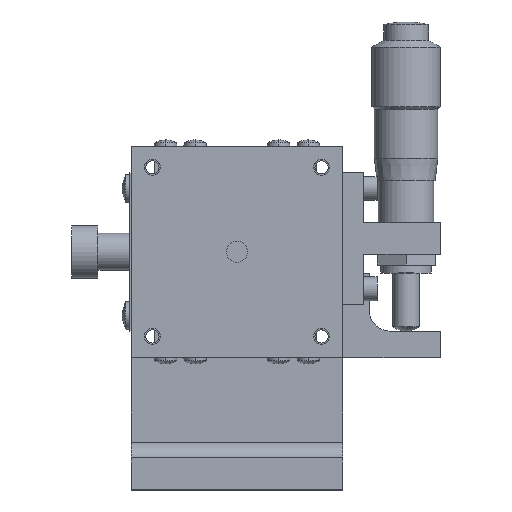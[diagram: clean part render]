
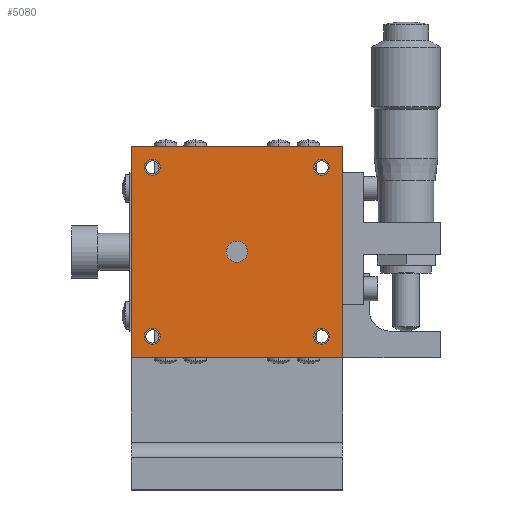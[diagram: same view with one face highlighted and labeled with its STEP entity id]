
A CAD part, top view. The second image highlights one B-rep face of the part: STEP entity #5080.
In plain terms, the highlighted planar face has unit normal (0, 0, 1).
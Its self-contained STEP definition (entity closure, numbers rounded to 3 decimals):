
#778 = DIRECTION ( 'NONE',  ( -1., 0., 0. ) ) ;
#779 = DIRECTION ( 'NONE',  ( 0., 0., 1. ) ) ;
#780 = CARTESIAN_POINT ( 'NONE',  ( -16., 61., 0. ) ) ;
#781 = AXIS2_PLACEMENT_3D ( 'NONE', #780, #779, #778 ) ;
#800 = CIRCLE ( 'NONE', #781, 1.5 ) ;
#911 = DIRECTION ( 'NONE',  ( -1., 0., 0. ) ) ;
#912 = DIRECTION ( 'NONE',  ( 0., 0., 1. ) ) ;
#913 = AXIS2_PLACEMENT_3D ( 'NONE', #928, #912, #911 ) ;
#922 = CIRCLE ( 'NONE', #913, 2. ) ;
#928 = CARTESIAN_POINT ( 'NONE',  ( 0., 45., 0. ) ) ;
#934 = LINE ( 'NONE', #939, #990 ) ;
#938 = DIRECTION ( 'NONE',  ( 0., -1., 0. ) ) ;
#939 = CARTESIAN_POINT ( 'NONE',  ( -20., 65., 0. ) ) ;
#976 = CARTESIAN_POINT ( 'NONE',  ( -20., 25., 0. ) ) ;
#990 = VECTOR ( 'NONE', #938, 1000. ) ;
#991 = DIRECTION ( 'NONE',  ( -1., 0., 0. ) ) ;
#992 = VECTOR ( 'NONE', #991, 1000. ) ;
#993 = CARTESIAN_POINT ( 'NONE',  ( -20., 25., 0. ) ) ;
#994 = LINE ( 'NONE', #993, #992 ) ;
#1037 = CARTESIAN_POINT ( 'NONE',  ( -20., 65., 0. ) ) ;
#1054 = DIRECTION ( 'NONE',  ( -1., 0., 0. ) ) ;
#1055 = VECTOR ( 'NONE', #1054, 1000. ) ;
#1056 = CARTESIAN_POINT ( 'NONE',  ( -20., 65., 0. ) ) ;
#1057 = LINE ( 'NONE', #1056, #1055 ) ;
#3126 = CARTESIAN_POINT ( 'NONE',  ( 17.5, 29., 0. ) ) ;
#3127 = CARTESIAN_POINT ( 'NONE',  ( 2., 45., 0. ) ) ;
#3132 = AXIS2_PLACEMENT_3D ( 'NONE', #3180, #3179, #3178 ) ;
#3136 = CARTESIAN_POINT ( 'NONE',  ( -2., 45., 0. ) ) ;
#3178 = DIRECTION ( 'NONE',  ( -1., 0., 0. ) ) ;
#3179 = DIRECTION ( 'NONE',  ( 0., 0., 1. ) ) ;
#3180 = CARTESIAN_POINT ( 'NONE',  ( 0., 45., 0. ) ) ;
#3188 = CIRCLE ( 'NONE', #3132, 2. ) ;
#3305 = DIRECTION ( 'NONE',  ( 0., 0., 1. ) ) ;
#3306 = CARTESIAN_POINT ( 'NONE',  ( -16., 61., 0. ) ) ;
#3307 = AXIS2_PLACEMENT_3D ( 'NONE', #3306, #3305, #3371 ) ;
#3308 = CIRCLE ( 'NONE', #3307, 1.5 ) ;
#3352 = CARTESIAN_POINT ( 'NONE',  ( -14.5, 61., 0. ) ) ;
#3371 = DIRECTION ( 'NONE',  ( -1., 0., 0. ) ) ;
#3388 = CARTESIAN_POINT ( 'NONE',  ( -17.5, 61., 0. ) ) ;
#3420 = CARTESIAN_POINT ( 'NONE',  ( -14.5, 29., 0. ) ) ;
#3479 = CARTESIAN_POINT ( 'NONE',  ( -17.5, 29., 0. ) ) ;
#3514 = DIRECTION ( 'NONE',  ( -1., 0., 0. ) ) ;
#3515 = DIRECTION ( 'NONE',  ( 0., 0., 1. ) ) ;
#3516 = CARTESIAN_POINT ( 'NONE',  ( -16., 29., 0. ) ) ;
#3517 = AXIS2_PLACEMENT_3D ( 'NONE', #3516, #3515, #3514 ) ;
#3528 = CIRCLE ( 'NONE', #3517, 1.5 ) ;
#3600 = CIRCLE ( 'NONE', #3606, 1.5 ) ;
#3605 = CARTESIAN_POINT ( 'NONE',  ( 16., 29., 0. ) ) ;
#3606 = AXIS2_PLACEMENT_3D ( 'NONE', #3605, #3659, #3658 ) ;
#3616 = CARTESIAN_POINT ( 'NONE',  ( 14.5, 29., 0. ) ) ;
#3658 = DIRECTION ( 'NONE',  ( -1., 0., 0. ) ) ;
#3659 = DIRECTION ( 'NONE',  ( 0., 0., 1. ) ) ;
#4978 = EDGE_CURVE ( 'NONE', #4999, #4979, #8003, .T. ) ;
#4979 = VERTEX_POINT ( 'NONE', #8047 ) ;
#4985 = VERTEX_POINT ( 'NONE', #8040 ) ;
#4994 = EDGE_CURVE ( 'NONE', #5000, #4985, #8085, .T. ) ;
#4999 = VERTEX_POINT ( 'NONE', #8019 ) ;
#5000 = VERTEX_POINT ( 'NONE', #8075 ) ;
#5008 = EDGE_CURVE ( 'NONE', #10207, #10172, #8124, .T. ) ;
#5059 = ORIENTED_EDGE ( 'NONE', *, *, #5984, .T. ) ;
#5061 = ORIENTED_EDGE ( 'NONE', *, *, #10212, .F. ) ;
#5062 = ORIENTED_EDGE ( 'NONE', *, *, #5908, .F. ) ;
#5068 = EDGE_LOOP ( 'NONE', ( #5070, #5837 ) ) ;
#5070 = ORIENTED_EDGE ( 'NONE', *, *, #5828, .F. ) ;
#5071 = EDGE_LOOP ( 'NONE', ( #5084, #5061 ) ) ;
#5072 = EDGE_LOOP ( 'NONE', ( #5083, #5081 ) ) ;
#5076 = EDGE_LOOP ( 'NONE', ( #5077, #5082 ) ) ;
#5077 = ORIENTED_EDGE ( 'NONE', *, *, #5078, .F. ) ;
#5078 = EDGE_CURVE ( 'NONE', #10283, #10002, #8164, .T. ) ;
#5080 = ADVANCED_FACE ( 'NONE', ( #8156, #8153, #8213, #8215, #8214, #8207 ), #8219, .T. ) ;
#5081 = ORIENTED_EDGE ( 'NONE', *, *, #4978, .F. ) ;
#5082 = ORIENTED_EDGE ( 'NONE', *, *, #10286, .F. ) ;
#5083 = ORIENTED_EDGE ( 'NONE', *, *, #5086, .F. ) ;
#5084 = ORIENTED_EDGE ( 'NONE', *, *, #5008, .F. ) ;
#5086 = EDGE_CURVE ( 'NONE', #4979, #4999, #8205, .T. ) ;
#5828 = EDGE_CURVE ( 'NONE', #10153, #10133, #800, .T. ) ;
#5837 = ORIENTED_EDGE ( 'NONE', *, *, #10117, .F. ) ;
#5862 = EDGE_LOOP ( 'NONE', ( #5062, #5936 ) ) ;
#5903 = ORIENTED_EDGE ( 'NONE', *, *, #5938, .F. ) ;
#5908 = EDGE_CURVE ( 'NONE', #9978, #9983, #922, .T. ) ;
#5933 = EDGE_CURVE ( 'NONE', #6002, #5954, #934, .T. ) ;
#5936 = ORIENTED_EDGE ( 'NONE', *, *, #9994, .F. ) ;
#5938 = EDGE_CURVE ( 'NONE', #4985, #5954, #994, .T. ) ;
#5953 = ORIENTED_EDGE ( 'NONE', *, *, #4994, .F. ) ;
#5954 = VERTEX_POINT ( 'NONE', #976 ) ;
#5984 = EDGE_CURVE ( 'NONE', #5000, #6002, #1057, .T. ) ;
#5991 = EDGE_LOOP ( 'NONE', ( #5999, #5903, #5953, #5059 ) ) ;
#5999 = ORIENTED_EDGE ( 'NONE', *, *, #5933, .T. ) ;
#6002 = VERTEX_POINT ( 'NONE', #1037 ) ;
#8003 = CIRCLE ( 'NONE', #8044, 1.5 ) ;
#8019 = CARTESIAN_POINT ( 'NONE',  ( 17.5, 61., 0. ) ) ;
#8040 = CARTESIAN_POINT ( 'NONE',  ( 20., 25., 0. ) ) ;
#8041 = DIRECTION ( 'NONE',  ( -1., 0., 0. ) ) ;
#8042 = DIRECTION ( 'NONE',  ( 0., 0., 1. ) ) ;
#8043 = CARTESIAN_POINT ( 'NONE',  ( 16., 61., 0. ) ) ;
#8044 = AXIS2_PLACEMENT_3D ( 'NONE', #8043, #8042, #8041 ) ;
#8047 = CARTESIAN_POINT ( 'NONE',  ( 14.5, 61., 0. ) ) ;
#8075 = CARTESIAN_POINT ( 'NONE',  ( 20., 65., 0. ) ) ;
#8082 = DIRECTION ( 'NONE',  ( 0., -1., 0. ) ) ;
#8083 = VECTOR ( 'NONE', #8082, 1000. ) ;
#8084 = CARTESIAN_POINT ( 'NONE',  ( 20., 65., 0. ) ) ;
#8085 = LINE ( 'NONE', #8084, #8083 ) ;
#8116 = DIRECTION ( 'NONE',  ( -1., 0., 0. ) ) ;
#8117 = DIRECTION ( 'NONE',  ( 0., 0., 1. ) ) ;
#8118 = CARTESIAN_POINT ( 'NONE',  ( -16., 29., 0. ) ) ;
#8119 = AXIS2_PLACEMENT_3D ( 'NONE', #8118, #8117, #8116 ) ;
#8124 = CIRCLE ( 'NONE', #8119, 1.5 ) ;
#8153 = FACE_BOUND ( 'NONE', #5076, .T. ) ;
#8154 = DIRECTION ( 'NONE',  ( 0., 0., 1. ) ) ;
#8155 = CARTESIAN_POINT ( 'NONE',  ( -20., 65., 0. ) ) ;
#8156 = FACE_BOUND ( 'NONE', #5072, .T. ) ;
#8164 = CIRCLE ( 'NONE', #8167, 1.5 ) ;
#8167 = AXIS2_PLACEMENT_3D ( 'NONE', #8218, #8217, #8216 ) ;
#8198 = DIRECTION ( 'NONE',  ( -1., 0., 0. ) ) ;
#8199 = DIRECTION ( 'NONE',  ( 0., 0., 1. ) ) ;
#8200 = AXIS2_PLACEMENT_3D ( 'NONE', #8212, #8199, #8198 ) ;
#8203 = DIRECTION ( 'NONE',  ( -1., 0., 0. ) ) ;
#8205 = CIRCLE ( 'NONE', #8200, 1.5 ) ;
#8207 = FACE_OUTER_BOUND ( 'NONE', #5991, .T. ) ;
#8211 = AXIS2_PLACEMENT_3D ( 'NONE', #8155, #8154, #8203 ) ;
#8212 = CARTESIAN_POINT ( 'NONE',  ( 16., 61., 0. ) ) ;
#8213 = FACE_BOUND ( 'NONE', #5071, .T. ) ;
#8214 = FACE_BOUND ( 'NONE', #5862, .T. ) ;
#8215 = FACE_BOUND ( 'NONE', #5068, .T. ) ;
#8216 = DIRECTION ( 'NONE',  ( -1., 0., 0. ) ) ;
#8217 = DIRECTION ( 'NONE',  ( 0., 0., 1. ) ) ;
#8218 = CARTESIAN_POINT ( 'NONE',  ( 16., 29., 0. ) ) ;
#8219 = PLANE ( 'NONE',  #8211 ) ;
#9978 = VERTEX_POINT ( 'NONE', #3136 ) ;
#9983 = VERTEX_POINT ( 'NONE', #3127 ) ;
#9994 = EDGE_CURVE ( 'NONE', #9983, #9978, #3188, .T. ) ;
#10002 = VERTEX_POINT ( 'NONE', #3126 ) ;
#10117 = EDGE_CURVE ( 'NONE', #10133, #10153, #3308, .T. ) ;
#10133 = VERTEX_POINT ( 'NONE', #3352 ) ;
#10153 = VERTEX_POINT ( 'NONE', #3388 ) ;
#10172 = VERTEX_POINT ( 'NONE', #3420 ) ;
#10207 = VERTEX_POINT ( 'NONE', #3479 ) ;
#10212 = EDGE_CURVE ( 'NONE', #10172, #10207, #3528, .T. ) ;
#10283 = VERTEX_POINT ( 'NONE', #3616 ) ;
#10286 = EDGE_CURVE ( 'NONE', #10002, #10283, #3600, .T. ) ;
